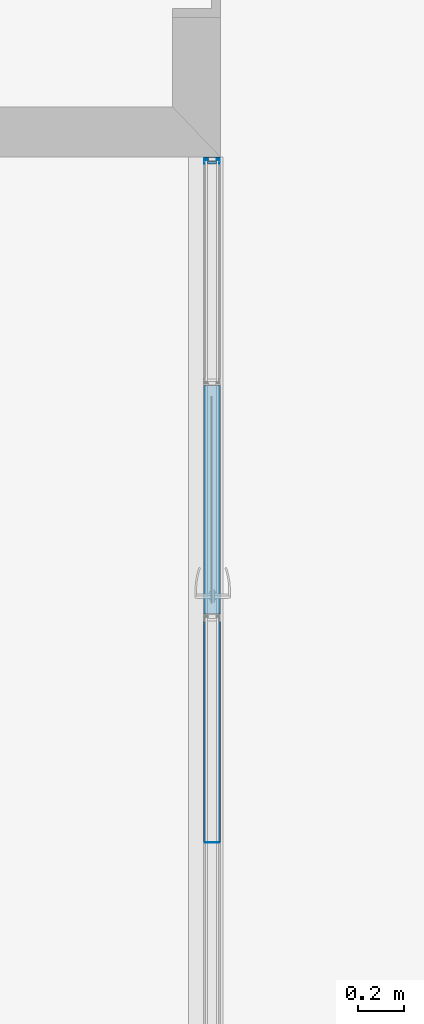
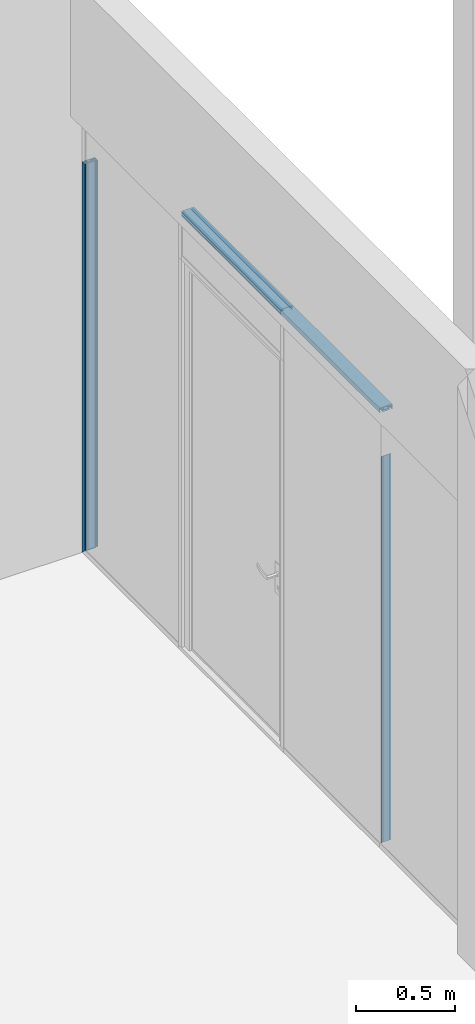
# One storey, part 15 of 65: 8 building element parts, 5 elements without a shape of their own.
"""IFC2X3 building model written with IfcOpenShell, lengths in millimetres."""

from ifc_helpers import new_model, entity, si_unit, converted_unit, derived_unit, money_unit, direction, frame, origin_with_axes, place, context, subcontext, project, spatial, faceted_brep, source, transform, mapped, material, type_object, element, aggregate, save


model = new_model("IFC2X3")

# Units and contexts
model_context = context("Model", 3, precision=0.01, world=origin_with_axes(), true_north=direction((0.0, 1.0)))
body_context = subcontext(model_context, "Body", "Model", "MODEL_VIEW")
ifc_project = project(units=[si_unit("LENGTHUNIT", "METRE", prefix="MILLI"), si_unit("AREAUNIT", "SQUARE_METRE"), si_unit("VOLUMEUNIT", "CUBIC_METRE"), converted_unit("PLANEANGLEUNIT", "DEGREE", entity("IfcPlaneAngleMeasure", 0.0174532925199), si_unit("PLANEANGLEUNIT", "RADIAN"), dimensions=[0, 0, 0, 0, 0, 0, 0]), si_unit("SOLIDANGLEUNIT", "STERADIAN"), money_unit("EUR"), converted_unit("TIMEUNIT", "Year", entity("IfcTimeMeasure", 31556926.0), si_unit("TIMEUNIT", "SECOND"), dimensions=[0, 0, 1, 0, 0, 0, 0]), si_unit("MASSUNIT", "GRAM", prefix="KILO"), si_unit("THERMODYNAMICTEMPERATUREUNIT", "DEGREE_CELSIUS"), si_unit("LUMINOUSINTENSITYUNIT", "LUMEN"), si_unit("ENERGYUNIT", "JOULE", prefix="MEGA"), derived_unit("THERMALCONDUCTANCEUNIT", [(si_unit("POWERUNIT", "WATT"), 1), (si_unit("LENGTHUNIT", "METRE"), -1), (si_unit("THERMODYNAMICTEMPERATUREUNIT", "KELVIN"), -1)]), derived_unit("SPECIFICHEATCAPACITYUNIT", [(si_unit("ENERGYUNIT", "JOULE"), 1), (si_unit("MASSUNIT", "GRAM", prefix="KILO"), -1), (si_unit("THERMODYNAMICTEMPERATUREUNIT", "KELVIN"), -1)]), derived_unit("MASSDENSITYUNIT", [(si_unit("MASSUNIT", "GRAM", prefix="KILO"), 1), (si_unit("VOLUMEUNIT", "CUBIC_METRE"), -1)])], contexts=[model_context])

# Site, building, storey
site_placement = place(None, origin_with_axes())
site = spatial("IfcSite", under=ifc_project, at=site_placement, Name="Puškini 31, Narva", CompositionType="ELEMENT")
building_placement = place(site_placement, origin_with_axes())
building = spatial("IfcBuilding", under=site, at=building_placement, Name="Narva Riigigümnaasium", CompositionType="ELEMENT")
storey_placement = place(building_placement, frame((0.0, 0.0, -1320.0), z_axis=(0.0, 0.0, 1.0), x_axis=(1.0, 0.0, 0.0)))
storey = spatial("IfcBuildingStorey", under=building, at=storey_placement, Name="1.korrus -1.32", CompositionType="ELEMENT", Elevation=-1320.0)

# Curtain wall, members, building element parts
curtain_wall_type = type_object("IfcCurtainWallType", Name="Curtain Wall Type", PredefinedType="NOTDEFINED")
curtain_wall_placement = place(storey_placement, frame((30362.9999948, 171898.750025, 0.0), z_axis=(0.0, 0.0, 1.0), x_axis=(1.0, 0.0, 0.0)))
curtain_wall = element("IfcCurtainWall", 1, at=curtain_wall_placement, inside=storey, type_object=curtain_wall_type, Name="G-SKLF-06")
member_type_1 = type_object("IfcMemberType", Name="30 x 37", PredefinedType="MULLION")
member_1_placement = place(curtain_wall_placement, frame((0.0, 3491.25008998, 0.0), z_axis=(0.0, 0.0, 1.0), x_axis=(0.0, -1.0, 0.0)))
member_1 = element("IfcMember", 2, at=member_1_placement, type_object=member_type_1, Name="G-SKLF-06-raam", ObjectType="MULLION")
ifc_material_1 = material(Name="Klaasvill")
shared_shape_1 = source(origin_with_axes(), body_context, "Body", "Brep", [
    faceted_brep([(13.8499999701, 20.000000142, 13.8500005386), (13.8499999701, 20.000000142, 2400.00003102), (7.49999990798, 20.000000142, 2400.00003102), (7.49999990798, 20.000000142, 7.5000002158), (13.8499999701, 34.0161444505, 13.8500005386), (13.8499999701, 34.0161444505, 2400.00003102), (7.49999990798, 34.0161444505, 2400.00003102), (7.49999990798, 34.0161444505, 7.5000002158)], [[[0, 1, 2, 3]], [[4, 5, 1, 0]], [[2, 1, 5, 6]], [[3, 2, 6, 7]], [[3, 7, 4, 0]], [[7, 6, 5, 4]]]),
    faceted_brep([(25.004489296, 32.0307503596, 25.0044903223), (25.004489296, 32.0307503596, 2400.00003102), (24.987414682, 34.0161444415, 2400.00003102), (24.987414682, 34.0161444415, 24.9874157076), (25.742237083, 31.2930025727, 25.7422381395), (25.742237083, 31.2930025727, 2400.00003102), (26.7500193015, 31.0229681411, 2400.00003102), (27.75780152, 31.2930025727, 2400.00003102), (28.4955493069, 32.0307503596, 2400.00003102), (28.7655837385, 33.0385325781, 2400.00003102), (28.5126239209, 34.0161444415, 2400.00003102), (28.5126239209, 34.0161444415, 28.5126250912), (28.7655837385, 33.0385325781, 28.7655849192), (28.4955493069, 32.0307503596, 28.4955504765), (27.75780152, 31.2930025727, 27.7578026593), (26.7500193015, 31.0229681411, 26.7500203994)], [[[0, 1, 2, 3]], [[4, 5, 1, 0]], [[2, 1, 5, 6, 7, 8, 9, 10]], [[3, 2, 10, 11]], [[3, 11, 12, 13, 14, 15, 4, 0]], [[15, 6, 5, 4]], [[14, 7, 6, 15]], [[13, 8, 7, 14]], [[12, 9, 8, 13]], [[11, 10, 9, 12]]]),
    faceted_brep([(7.49999990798, -34.0161445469, 7.5000002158), (7.49999990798, -34.0161445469, 2400.00003102), (7.49999990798, -19.9999997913, 2400.00003102), (7.49999990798, -19.9999997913, 7.5000002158), (13.8499999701, -34.0161445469, 13.8500005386), (13.8499999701, -34.0161445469, 2400.00003102), (13.8499999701, -19.9999997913, 2400.00003102), (13.8499999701, -19.9999997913, 13.8500005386)], [[[0, 1, 2, 3]], [[4, 5, 1, 0]], [[2, 1, 5, 6]], [[3, 2, 6, 7]], [[3, 7, 4, 0]], [[7, 6, 5, 4]]]),
    faceted_brep([(24.987414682, -34.0161444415, 24.9874157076), (24.987414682, -34.0161444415, 2400.00003102), (25.004489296, -32.0307503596, 2400.00003102), (25.004489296, -32.0307503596, 25.0044903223), (28.5126239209, -34.0161444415, 28.5126250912), (28.5126239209, -34.0161444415, 2400.00003102), (28.7655837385, -33.0385325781, 2400.00003102), (28.4955493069, -32.0307503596, 2400.00003102), (27.75780152, -31.2930025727, 2400.00003102), (26.7500193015, -31.0229681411, 2400.00003102), (25.742237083, -31.2930025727, 2400.00003102), (25.742237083, -31.2930025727, 25.7422381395), (26.7500193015, -31.0229681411, 26.7500203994), (27.75780152, -31.2930025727, 27.7578026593), (28.4955493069, -32.0307503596, 28.4955504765), (28.7655837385, -33.0385325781, 28.7655849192)], [[[0, 1, 2, 3]], [[4, 5, 1, 0]], [[2, 1, 5, 6, 7, 8, 9, 10]], [[3, 2, 10, 11]], [[3, 11, 12, 13, 14, 15, 4, 0]], [[15, 6, 5, 4]], [[14, 7, 6, 15]], [[13, 8, 7, 14]], [[12, 9, 8, 13]], [[11, 10, 9, 12]]]),
])
building_element_part_1_placement = place(member_1_placement, origin_with_axes())
building_element_part_1 = element("IfcBuildingElementPart", 3, at=building_element_part_1_placement, material=ifc_material_1, Name="Klaasvill", context=body_context, shape_type="MappedRepresentation", body=[
    mapped(shared_shape_1, transform((0.0, 0.0, 0.0))),
])
ifc_material_2 = material(Name="Teras RAL7012")
shared_shape_2 = source(origin_with_axes(), body_context, "Body", "Brep", [
    faceted_brep([(29.5999996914, -17.0000000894, 29.6000009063), (29.5999996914, -17.0000000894, 2400.00003102), (0.0, -17.0000000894, 2400.00003102), (0.0, -17.0000000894, 0.0), (29.5999996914, 17.0000000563, 29.6000009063), (29.5999996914, 17.0000000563, 2400.00003102), (0.0, 17.0000000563, 2400.00003102), (1.9999999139, 15.0000001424, 2400.00003102), (18.7999996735, 15.0000001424, 2400.00003102), (18.7999996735, -15.0000001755, 2400.00003102), (1.9999999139, -15.0000001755, 2400.00003102), (0.0, 17.0000000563, 0.0), (1.9999999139, 15.0000001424, 1.99999999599), (1.9999999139, -15.0000001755, 1.99999999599), (18.7999996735, -15.0000001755, 18.8000004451), (18.7999996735, 15.0000001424, 18.8000004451)], [[[0, 1, 2, 3]], [[4, 5, 1, 0]], [[2, 1, 5, 6], [7, 8, 9, 10]], [[3, 2, 6, 11]], [[3, 11, 4, 0], [12, 13, 14, 15]], [[11, 6, 5, 4]], [[15, 8, 7, 12]], [[14, 9, 8, 15]], [[13, 10, 9, 14]], [[12, 7, 10, 13]]]),
    faceted_brep([(29.5999996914, 17.0000000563, 29.6000009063), (29.5999996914, 17.0000000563, 2400.00003102), (0.0, 17.0, 2400.00003102), (0.0, 17.0, 0.0), (30.0000193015, 17.0, 30.0000205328), (30.0000193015, 17.0, 2400.00003102), (30.0000193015, 20.0, 2400.00003102), (13.8499999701, 20.000000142, 2400.00003102), (7.49999999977, 20.0, 2400.00003102), (7.49999999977, 34.0161444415, 2400.00003102), (13.8499999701, 34.0161444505, 2400.00003102), (24.987414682, 34.0161444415, 2400.00003102), (28.5126239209, 34.0161444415, 2400.00003102), (30.0000193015, 34.0161444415, 2400.00003102), (30.0000193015, 37.0, 2400.00003102), (0.0, 37.0, 2400.00003102), (0.0, 37.0, 0.0), (30.0000193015, 37.0, 30.0000205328), (30.0000193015, 34.0161444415, 30.0000205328), (28.5126239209, 34.0161444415, 28.5126250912), (24.987414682, 34.0161444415, 24.9874157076), (13.8499999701, 34.0161444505, 13.8500005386), (7.49999999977, 34.0161444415, 7.50000030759), (7.49999999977, 20.0, 7.50000030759), (13.8499999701, 20.000000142, 13.8500005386), (30.0000193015, 20.0, 30.0000205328)], [[[0, 1, 2, 3]], [[4, 5, 1, 0]], [[2, 1, 5, 6, 7, 8, 9, 10, 11, 12, 13, 14, 15]], [[3, 2, 15, 16]], [[3, 16, 17, 18, 19, 20, 21, 22, 23, 24, 25, 4, 0]], [[25, 6, 5, 4]], [[24, 7, 6, 25]], [[23, 8, 7, 24]], [[22, 9, 8, 23]], [[21, 10, 9, 22]], [[20, 11, 10, 21]], [[19, 12, 11, 20]], [[18, 13, 12, 19]], [[17, 14, 13, 18]], [[16, 15, 14, 17]]]),
    faceted_brep([(0.0, -37.0, 0.0), (0.0, -37.0, 2400.00003102), (0.0, -17.0, 2400.00003102), (0.0, -17.0, 0.0), (30.0000193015, -37.0, 30.0000205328), (30.0000193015, -37.0, 2400.00003102), (30.0000193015, -34.0161444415, 2400.00003102), (28.5126239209, -34.0161444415, 2400.00003102), (24.987414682, -34.0161444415, 2400.00003102), (13.8499999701, -34.0161445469, 2400.00003102), (7.49999999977, -34.0161444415, 2400.00003102), (7.49999999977, -20.0, 2400.00003102), (13.8499999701, -19.9999997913, 2400.00003102), (30.0000193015, -20.0, 2400.00003102), (30.0000193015, -17.0, 2400.00003102), (29.5999996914, -17.0000000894, 2400.00003102), (29.5999996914, -17.0000000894, 29.6000009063), (30.0000193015, -17.0, 30.0000205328), (30.0000193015, -20.0, 30.0000205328), (13.8499999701, -19.9999997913, 13.8500005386), (7.49999999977, -20.0, 7.50000030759), (7.49999999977, -34.0161444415, 7.50000030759), (13.8499999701, -34.0161445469, 13.8500005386), (24.987414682, -34.0161444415, 24.9874157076), (28.5126239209, -34.0161444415, 28.5126250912), (30.0000193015, -34.0161444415, 30.0000205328)], [[[0, 1, 2, 3]], [[4, 5, 1, 0]], [[2, 1, 5, 6, 7, 8, 9, 10, 11, 12, 13, 14, 15]], [[3, 2, 15, 16]], [[3, 16, 17, 18, 19, 20, 21, 22, 23, 24, 25, 4, 0]], [[25, 6, 5, 4]], [[24, 7, 6, 25]], [[23, 8, 7, 24]], [[22, 9, 8, 23]], [[21, 10, 9, 22]], [[20, 11, 10, 21]], [[19, 12, 11, 20]], [[18, 13, 12, 19]], [[17, 14, 13, 18]], [[16, 15, 14, 17]]]),
])
building_element_part_2_placement = place(member_1_placement, origin_with_axes())
building_element_part_2 = element("IfcBuildingElementPart", 4, at=building_element_part_2_placement, material=ifc_material_2, Name="Teras RAL7012", context=body_context, shape_type="MappedRepresentation", body=[
    mapped(shared_shape_2, transform((0.0, 0.0, 0.0))),
])
aggregate(member_1, [building_element_part_1, building_element_part_2])
member_type_2 = type_object("IfcMemberType", Name="Siseklaasfassaad - Raam n2htamatu 3 x 29", PredefinedType="MULLION")
member_2_placement = place(curtain_wall_placement, frame((0.0, 498.75, 0.0), z_axis=(0.0, 0.0, 1.0), x_axis=(0.0, -1.0, 0.0)))
member_2 = element("IfcMember", 5, at=member_2_placement, type_object=member_type_2, Name="G-SKLF-06-klaasidevaheline tihend", ObjectType="MULLION")
ifc_material_3 = material(Name="Klaas")
shared_shape_3 = source(origin_with_axes(), body_context, "Body", "Brep", [
    faceted_brep([(1.5000138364, 20.0064497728, 30.0000193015), (1.5000138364, 20.0064497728, 2400.00000477), (-1.4999861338, 20.0064497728, 2400.00000477), (-1.4999861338, 20.0064497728, 30.0000193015), (1.5000138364, 29.0064496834, 30.0000193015), (1.5000138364, 29.0064496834, 2400.00000477), (-1.4999861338, 29.0064496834, 2400.00000477), (-1.4999861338, 29.0064496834, 30.0000193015)], [[[0, 1, 2, 3]], [[4, 5, 1, 0]], [[2, 1, 5, 6]], [[3, 2, 6, 7]], [[3, 7, 4, 0]], [[7, 6, 5, 4]]]),
    faceted_brep([(-1.4999861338, -28.9935503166, 30.0000193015), (-1.4999861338, -28.9935503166, 2400.00000477), (-1.4999861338, -19.993550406, 2400.00000477), (-1.4999861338, -19.993550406, 30.0000193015), (1.5000138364, -28.9935503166, 30.0000193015), (1.5000138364, -28.9935503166, 2400.00000477), (1.5000138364, -19.993550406, 2400.00000477), (1.5000138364, -19.993550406, 30.0000193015)], [[[0, 1, 2, 3]], [[4, 5, 1, 0]], [[2, 1, 5, 6]], [[3, 2, 6, 7]], [[3, 7, 4, 0]], [[7, 6, 5, 4]]]),
])
building_element_part_3_placement = place(member_2_placement, origin_with_axes())
building_element_part_3 = element("IfcBuildingElementPart", 6, at=building_element_part_3_placement, material=ifc_material_3, Name="Klaas", context=body_context, shape_type="MappedRepresentation", body=[
    mapped(shared_shape_3, transform((0.0, 0.0, 0.0))),
])
ifc_material_4 = material(Name="VKR-06_Õhkvahe")
shared_shape_4 = source(origin_with_axes(), body_context, "Body", "Brep", [
    faceted_brep([(-1.4999861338, -19.9935503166, 30.0000193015), (-1.4999861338, -19.9935503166, 2400.00000477), (-1.4999861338, 20.0064496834, 2400.00000477), (-1.4999861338, 20.0064496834, 30.0000193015), (1.5000138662, -19.9935503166, 30.0000193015), (1.5000138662, -19.9935503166, 2400.00000477), (1.5000138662, 20.0064496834, 2400.00000477), (1.5000138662, 20.0064496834, 30.0000193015)], [[[0, 1, 2, 3]], [[4, 5, 1, 0]], [[2, 1, 5, 6]], [[3, 2, 6, 7]], [[3, 7, 4, 0]], [[7, 6, 5, 4]]]),
])
building_element_part_4_placement = place(member_2_placement, origin_with_axes())
building_element_part_4 = element("IfcBuildingElementPart", 7, at=building_element_part_4_placement, material=ifc_material_4, Name="VKR-06_Õhkvahe", context=body_context, shape_type="MappedRepresentation", body=[
    mapped(shared_shape_4, transform((0.0, 0.0, 0.0))),
])
aggregate(member_2, [building_element_part_3, building_element_part_4])
member_3_placement = place(curtain_wall_placement, frame((0.0, 498.75, 2700.0), z_axis=(0.0, 1.0, 0.0), x_axis=(0.0, 0.0, 1.0)))
member_3 = element("IfcMember", 8, at=member_3_placement, type_object=member_type_1, Name="G-SKLF-06-raam", ObjectType="MULLION")
shared_shape_5 = source(origin_with_axes(), body_context, "Body", "Brep", [
    faceted_brep([(-7.49999990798, 20.000000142, 0.0), (-7.49999990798, 20.000000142, 997.5), (-13.8499999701, 20.000000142, 997.5), (-13.8499999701, 20.000000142, 0.0), (-7.49999990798, 34.0161444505, 0.0), (-7.49999990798, 34.0161444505, 997.5), (-13.8499999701, 34.0161444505, 997.5), (-13.8499999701, 34.0161444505, 0.0)], [[[0, 1, 2, 3]], [[4, 5, 1, 0]], [[1, 5, 6, 2]], [[3, 2, 6, 7]], [[0, 3, 7, 4]], [[7, 6, 5, 4]]]),
    faceted_brep([(-24.987414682, 34.0161444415, 0.0), (-24.987414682, 34.0161444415, 997.5), (-25.004489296, 32.0307503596, 997.5), (-25.004489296, 32.0307503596, 0.0), (-28.5126239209, 34.0161444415, 0.0), (-28.5126239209, 34.0161444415, 997.5), (-28.7655837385, 33.0385325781, 997.5), (-28.4955493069, 32.0307503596, 997.5), (-27.75780152, 31.2930025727, 997.5), (-26.7500193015, 31.0229681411, 997.5), (-25.742237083, 31.2930025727, 997.5), (-25.742237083, 31.2930025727, 0.0), (-26.7500193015, 31.0229681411, 0.0), (-27.75780152, 31.2930025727, 0.0), (-28.4955493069, 32.0307503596, 0.0), (-28.7655837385, 33.0385325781, 0.0)], [[[0, 1, 2, 3]], [[4, 5, 1, 0]], [[1, 5, 6, 7, 8, 9, 10, 2]], [[3, 2, 10, 11]], [[0, 3, 11, 12, 13, 14, 15, 4]], [[15, 6, 5, 4]], [[14, 7, 6, 15]], [[13, 8, 7, 14]], [[12, 9, 8, 13]], [[11, 10, 9, 12]]]),
    faceted_brep([(-7.49999990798, -19.9999997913, 0.0), (-7.49999990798, -19.9999997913, 997.5), (-7.49999990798, -34.0161445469, 997.5), (-7.49999990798, -34.0161445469, 0.0), (-13.8499999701, -19.9999997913, 0.0), (-13.8499999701, -19.9999997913, 997.5), (-13.8499999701, -34.0161445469, 997.5), (-13.8499999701, -34.0161445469, 0.0)], [[[0, 1, 2, 3]], [[4, 5, 1, 0]], [[1, 5, 6, 2]], [[3, 2, 6, 7]], [[0, 3, 7, 4]], [[7, 6, 5, 4]]]),
    faceted_brep([(-25.004489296, -32.0307503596, 0.0), (-25.004489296, -32.0307503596, 997.5), (-24.987414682, -34.0161444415, 997.5), (-24.987414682, -34.0161444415, 0.0), (-25.742237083, -31.2930025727, 0.0), (-25.742237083, -31.2930025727, 997.5), (-26.7500193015, -31.0229681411, 997.5), (-27.75780152, -31.2930025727, 997.5), (-28.4955493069, -32.0307503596, 997.5), (-28.7655837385, -33.0385325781, 997.5), (-28.5126239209, -34.0161444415, 997.5), (-28.5126239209, -34.0161444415, 0.0), (-28.7655837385, -33.0385325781, 0.0), (-28.4955493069, -32.0307503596, 0.0), (-27.75780152, -31.2930025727, 0.0), (-26.7500193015, -31.0229681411, 0.0)], [[[0, 1, 2, 3]], [[4, 5, 1, 0]], [[1, 5, 6, 7, 8, 9, 10, 2]], [[3, 2, 10, 11]], [[0, 3, 11, 12, 13, 14, 15, 4]], [[15, 6, 5, 4]], [[14, 7, 6, 15]], [[13, 8, 7, 14]], [[12, 9, 8, 13]], [[11, 10, 9, 12]]]),
])
building_element_part_5_placement = place(member_3_placement, origin_with_axes())
building_element_part_5 = element("IfcBuildingElementPart", 9, at=building_element_part_5_placement, material=ifc_material_1, Name="Klaasvill", context=body_context, shape_type="MappedRepresentation", body=[
    mapped(shared_shape_5, transform((0.0, 0.0, 0.0))),
])
member_4_placement = place(curtain_wall_placement, frame((0.0, 1496.25, 2700.0), z_axis=(0.0, 1.0, 0.0), x_axis=(0.0, 0.0, 1.0)))
member_4 = element("IfcMember", 10, at=member_4_placement, type_object=member_type_1, Name="G-SKLF-06-raam", ObjectType="MULLION")
aggregate(curtain_wall, [member_2, member_3, member_4, member_1])
building_element_part_6_placement = place(member_4_placement, origin_with_axes())
building_element_part_6 = element("IfcBuildingElementPart", 11, at=building_element_part_6_placement, material=ifc_material_1, Name="Klaasvill", context=body_context, shape_type="MappedRepresentation", body=[
    mapped(shared_shape_5, transform((0.0, 0.0, 0.0))),
])
shared_shape_6 = source(origin_with_axes(), body_context, "Body", "Brep", [
    faceted_brep([(0.0, -17.0000000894, 0.0), (0.0, -17.0000000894, 997.5), (-29.5999996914, -17.0000000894, 997.5), (-29.5999996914, -17.0000000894, 0.0), (0.0, 17.0000000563, 0.0), (0.0, 17.0000000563, 997.5), (-29.5999996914, 17.0000000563, 997.5), (-1.9999999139, 15.0000001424, 997.5), (-1.9999999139, -15.0000001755, 997.5), (-18.7999996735, -15.0000001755, 997.5), (-18.7999996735, 15.0000001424, 997.5), (-29.5999996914, 17.0000000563, 0.0), (-1.9999999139, 15.0000001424, 0.0), (-18.7999996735, 15.0000001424, 0.0), (-18.7999996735, -15.0000001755, 0.0), (-1.9999999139, -15.0000001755, 0.0)], [[[0, 1, 2, 3]], [[4, 5, 1, 0]], [[1, 5, 6, 2], [7, 8, 9, 10]], [[3, 2, 6, 11]], [[0, 3, 11, 4], [12, 13, 14, 15]], [[11, 6, 5, 4]], [[15, 8, 7, 12]], [[14, 9, 8, 15]], [[13, 10, 9, 14]], [[12, 7, 10, 13]]]),
    faceted_brep([(0.0, 17.0, 0.0), (0.0, 17.0, 997.5), (-29.5999996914, 17.0000000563, 997.5), (-29.5999996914, 17.0000000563, 0.0), (0.0, 37.0, 0.0), (0.0, 37.0, 997.5), (-30.0000193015, 37.0, 997.5), (-30.0000193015, 34.0161444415, 997.5), (-28.5126239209, 34.0161444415, 997.5), (-24.987414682, 34.0161444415, 997.5), (-13.8499999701, 34.0161444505, 997.5), (-7.49999999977, 34.0161444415, 997.5), (-7.49999999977, 20.0, 997.5), (-13.8499999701, 20.000000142, 997.5), (-30.0000193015, 20.0, 997.5), (-30.0000193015, 17.0, 997.5), (-30.0000193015, 17.0, 0.0), (-30.0000193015, 20.0, 0.0), (-13.8499999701, 20.000000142, 0.0), (-7.49999999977, 20.0, 0.0), (-7.49999999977, 34.0161444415, 0.0), (-13.8499999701, 34.0161444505, 0.0), (-24.987414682, 34.0161444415, 0.0), (-28.5126239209, 34.0161444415, 0.0), (-30.0000193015, 34.0161444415, 0.0), (-30.0000193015, 37.0, 0.0)], [[[0, 1, 2, 3]], [[4, 5, 1, 0]], [[1, 5, 6, 7, 8, 9, 10, 11, 12, 13, 14, 15, 2]], [[3, 2, 15, 16]], [[0, 3, 16, 17, 18, 19, 20, 21, 22, 23, 24, 25, 4]], [[25, 6, 5, 4]], [[24, 7, 6, 25]], [[23, 8, 7, 24]], [[22, 9, 8, 23]], [[21, 10, 9, 22]], [[20, 11, 10, 21]], [[19, 12, 11, 20]], [[18, 13, 12, 19]], [[17, 14, 13, 18]], [[16, 15, 14, 17]]]),
    faceted_brep([(0.0, -17.0, 0.0), (0.0, -17.0, 997.5), (0.0, -37.0, 997.5), (0.0, -37.0, 0.0), (-29.5999996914, -17.0000000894, 0.0), (-29.5999996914, -17.0000000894, 997.5), (-30.0000193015, -17.0, 997.5), (-30.0000193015, -20.0, 997.5), (-13.8499999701, -19.9999997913, 997.5), (-7.49999999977, -20.0, 997.5), (-7.49999999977, -34.0161444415, 997.5), (-13.8499999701, -34.0161445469, 997.5), (-24.987414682, -34.0161444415, 997.5), (-28.5126239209, -34.0161444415, 997.5), (-30.0000193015, -34.0161444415, 997.5), (-30.0000193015, -37.0, 997.5), (-30.0000193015, -37.0, 0.0), (-30.0000193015, -34.0161444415, 0.0), (-28.5126239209, -34.0161444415, 0.0), (-24.987414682, -34.0161444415, 0.0), (-13.8499999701, -34.0161445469, 0.0), (-7.49999999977, -34.0161444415, 0.0), (-7.49999999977, -20.0, 0.0), (-13.8499999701, -19.9999997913, 0.0), (-30.0000193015, -20.0, 0.0), (-30.0000193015, -17.0, 0.0)], [[[0, 1, 2, 3]], [[4, 5, 1, 0]], [[1, 5, 6, 7, 8, 9, 10, 11, 12, 13, 14, 15, 2]], [[3, 2, 15, 16]], [[0, 3, 16, 17, 18, 19, 20, 21, 22, 23, 24, 25, 4]], [[25, 6, 5, 4]], [[24, 7, 6, 25]], [[23, 8, 7, 24]], [[22, 9, 8, 23]], [[21, 10, 9, 22]], [[20, 11, 10, 21]], [[19, 12, 11, 20]], [[18, 13, 12, 19]], [[17, 14, 13, 18]], [[16, 15, 14, 17]]]),
])
building_element_part_7_placement = place(member_3_placement, origin_with_axes())
building_element_part_7 = element("IfcBuildingElementPart", 12, at=building_element_part_7_placement, material=ifc_material_2, Name="Teras RAL7012", context=body_context, shape_type="MappedRepresentation", body=[
    mapped(shared_shape_6, transform((0.0, 0.0, 0.0))),
])
aggregate(member_3, [building_element_part_5, building_element_part_7])
building_element_part_8_placement = place(member_4_placement, origin_with_axes())
building_element_part_8 = element("IfcBuildingElementPart", 13, at=building_element_part_8_placement, material=ifc_material_2, Name="Teras RAL7012", context=body_context, shape_type="MappedRepresentation", body=[
    mapped(shared_shape_6, transform((0.0, 0.0, 0.0))),
])
aggregate(member_4, [building_element_part_6, building_element_part_8])

save(model, "model.ifc")
